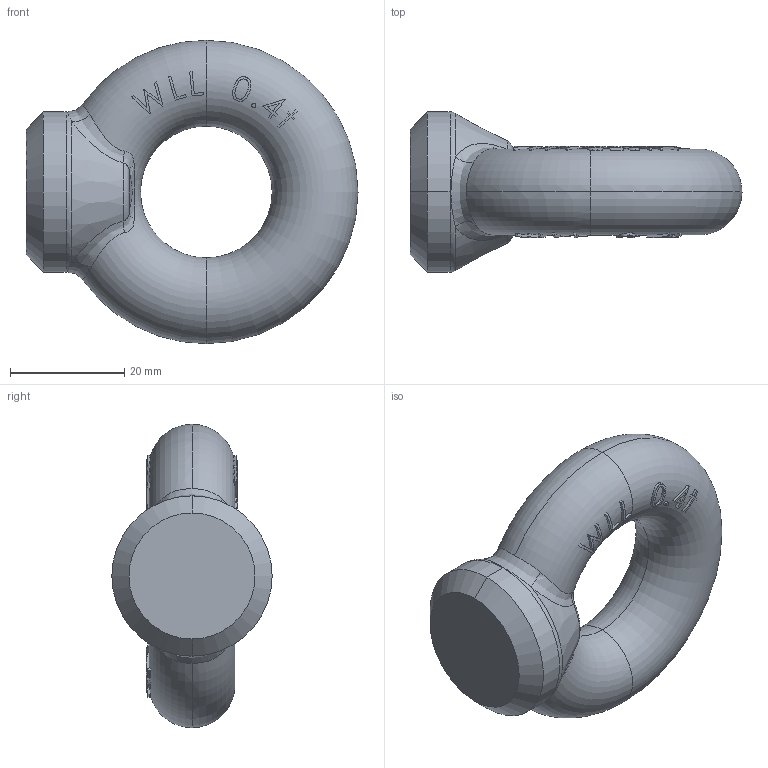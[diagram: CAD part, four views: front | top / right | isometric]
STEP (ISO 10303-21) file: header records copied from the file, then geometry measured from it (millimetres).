
FILE_DESCRIPTION (( 'STEP AP214' ), '1' );
FILE_NAME ('PELP040.STEP', '2024-02-12T15:02:58', ( '' ), ( '' ), 'SwSTEP 2.0', 'SolidWorks 2018', '' );
FILE_SCHEMA (( 'AUTOMOTIVE_DESIGN' ));
Length unit declared in the file: millimetre
Products named in the file (1): PELP040
Bounding box: 58 x 28 x 53 mm (x, y, z)
Volume: 26533.7 mm3; surface area: 6804.7 mm2
Topology: 1 solids, 1 shells, 287 faces, 757 edges, 498 vertices
Faces by surface type: plane 179, bspline 60, torus 40, cone 6, cylinder 2
Entity records: 13777 total; most frequent: CARTESIAN_POINT 7760, ORIENTED_EDGE 1514, DIRECTION 764, EDGE_CURVE 757, VERTEX_POINT 498, B_SPLINE_CURVE_WITH_KNOTS 488, EDGE_LOOP 315, ADVANCED_FACE 287
